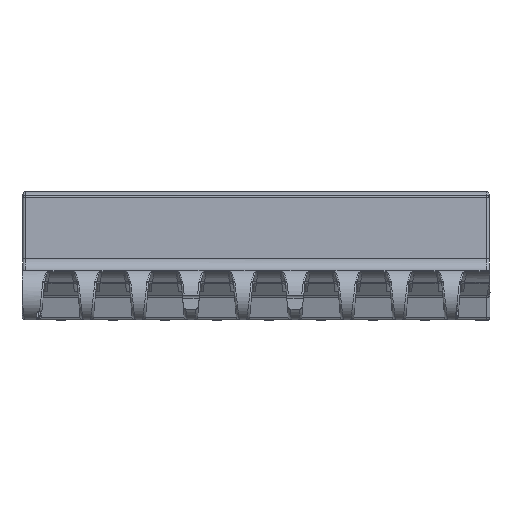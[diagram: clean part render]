
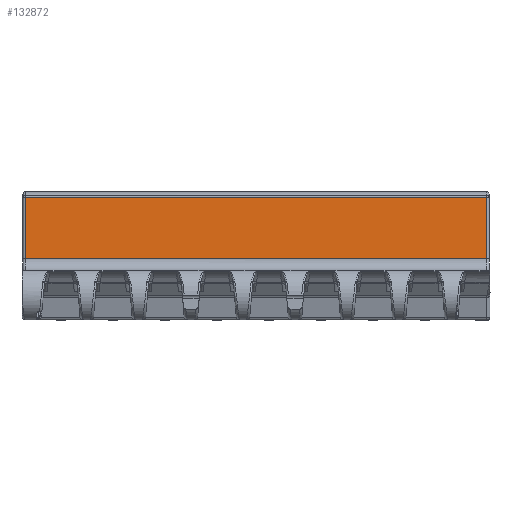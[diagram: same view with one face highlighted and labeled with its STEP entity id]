
A CAD part, top view. The second image highlights one B-rep face of the part: STEP entity #132872.
In plain terms, the highlighted planar face has unit normal (0, 0.018, 1).
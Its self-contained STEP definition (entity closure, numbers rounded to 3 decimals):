
#44773=CARTESIAN_POINT('',(-137.493,11.93,
3.65));
#44795=DIRECTION('',(1.,0.,0.));
#44796=VECTOR('',#44795,148.986);
#44797=CARTESIAN_POINT('',(-137.493,11.93,
3.65));
#44798=LINE('',#44797,#44796);
#44819=CARTESIAN_POINT('',(11.493,11.93,3.65));
#44882=DIRECTION('',(-0.002,-1.,0.017));
#44883=VECTOR('',#44882,19.712);
#44884=CARTESIAN_POINT('',(-137.459,31.639,
3.305));
#44885=LINE('',#44884,#44883);
#44886=DIRECTION('',(-1.,0.,0.));
#44887=VECTOR('',#44886,148.918);
#44888=CARTESIAN_POINT('',(11.459,31.639,3.305));
#44889=LINE('',#44888,#44887);
#44890=DIRECTION('',(-0.002,1.,-0.017));
#44891=VECTOR('',#44890,19.712);
#44892=CARTESIAN_POINT('',(11.493,11.93,3.65));
#44893=LINE('',#44892,#44891);
#46838=VERTEX_POINT('',#44773);
#46842=CARTESIAN_POINT('',(-137.459,31.639,
3.305));
#46843=VERTEX_POINT('',#46842);
#46847=VERTEX_POINT('',#44819);
#46848=CARTESIAN_POINT('',(11.459,31.639,3.305));
#46849=VERTEX_POINT('',#46848);
#132860=CARTESIAN_POINT('',(12.25,31.935,3.3));
#132861=DIRECTION('',(0.,0.017,1.));
#132862=DIRECTION('',(0.,-1.,0.017));
#132863=AXIS2_PLACEMENT_3D('',#132860,#132861,#132862);
#132864=PLANE('',#132863);
#132865=ORIENTED_EDGE('',*,*,#132581,.F.);
#132867=ORIENTED_EDGE('',*,*,#132866,.F.);
#132868=ORIENTED_EDGE('',*,*,#132852,.F.);
#132869=ORIENTED_EDGE('',*,*,#132465,.F.);
#132870=EDGE_LOOP('',(#132865,#132867,#132868,#132869));
#132871=FACE_OUTER_BOUND('',#132870,.F.);
#132872=ADVANCED_FACE('',(#132871),#132864,.T.);
#132465=EDGE_CURVE('',#46838,#46847,#44798,.T.);
#132581=EDGE_CURVE('',#46843,#46838,#44885,.T.);
#132852=EDGE_CURVE('',#46847,#46849,#44893,.T.);
#132866=EDGE_CURVE('',#46849,#46843,#44889,.T.);
